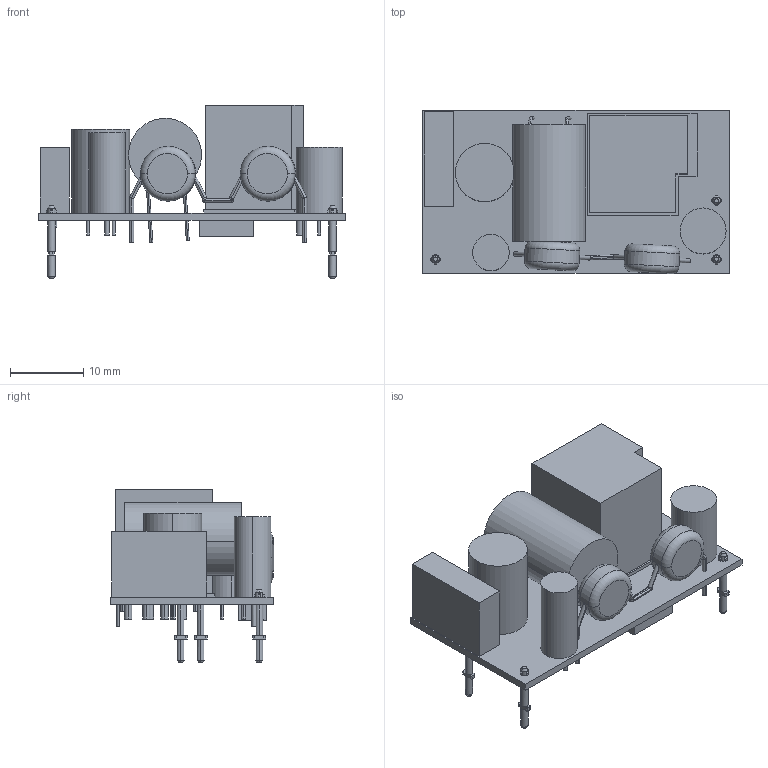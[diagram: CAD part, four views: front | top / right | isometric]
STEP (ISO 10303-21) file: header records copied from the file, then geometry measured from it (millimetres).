
FILE_DESCRIPTION(('Creo Elements/Direct Modeling STEP Export'),'2;1');
FILE_NAME('MFM-05.stp','2020-05-26T10:30:39',(''),(''),'PTC Creo Elements/Direct Modeling STEP processor for AP214 (Solid Model)','PTC Creo Elements/Direct Modeling 19.0E 27-Jun-2016 (C) Parametric Technology GmbH','');
FILE_SCHEMA(('AUTOMOTIVE_DESIGN { 1 0 10303 214 1 1 1 1 }'));
Length unit declared in the file: millimetre
Products named in the file (20): TF1; PCB; C4; C37; C1; u2; Y.1.1; Y.1.1.1; C101; PART; PIN1; PIN1.4; PIN1.2; PIN1.3; pin; C5; 11.1; 11; c5; MFM-10
Assembly tree (19 placements, depth 3):
  MFM-10
    c5
      11
      11.1
      C5
    pin
      PIN1.3
      PIN1.2
      PIN1.4
      PIN1
    PART
      C101
      Y.1.1.1
      Y.1.1
      u2
      C1
      C37
      C4
    PCB
    TF1
Bounding box: 42 x 22.4 x 23.8 mm (x, y, z)
Volume: 6697.2 mm3; surface area: 5839.5 mm2
Topology: 16 solids, 16 shells, 342 faces, 784 edges, 501 vertices
Faces by surface type: plane 150, cylinder 129, cone 48, torus 15
Entity records: 11165 total; most frequent: CARTESIAN_POINT 3475, ORIENTED_EDGE 1568, DIRECTION 1313, EDGE_CURVE 784, AXIS2_PLACEMENT_3D 501, VERTEX_POINT 501, EDGE_LOOP 377, FACE_OUTER_BOUND 342
